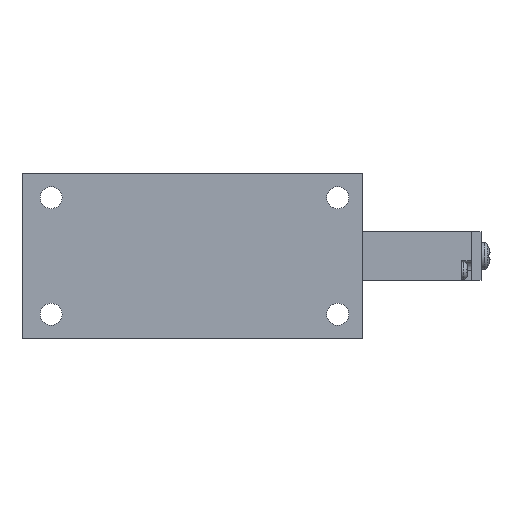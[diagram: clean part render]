
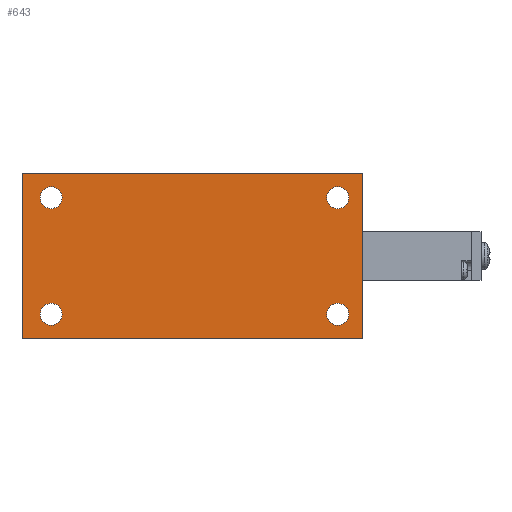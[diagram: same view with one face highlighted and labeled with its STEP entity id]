
A CAD part, front view. The second image highlights one B-rep face of the part: STEP entity #643.
In plain terms, the highlighted planar face has unit normal (0, -1, 0).
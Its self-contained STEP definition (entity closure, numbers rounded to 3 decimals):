
#643=ADVANCED_FACE('',(#1352,#1353,#1354,#1355,#1356),#1357,.F.);
#1352=FACE_OUTER_BOUND('',#2073,.T.);
#1353=FACE_BOUND('',#2074,.T.);
#1354=FACE_BOUND('',#2075,.T.);
#1355=FACE_BOUND('',#2076,.T.);
#1356=FACE_BOUND('',#2077,.T.);
#1357=PLANE('',#2078);
#2073=EDGE_LOOP('',(#4474,#4475,#4476,#4477));
#2074=EDGE_LOOP('',(#4478));
#2075=EDGE_LOOP('',(#4479));
#2076=EDGE_LOOP('',(#4480));
#2077=EDGE_LOOP('',(#4481));
#2078=AXIS2_PLACEMENT_3D('',#4482,#4483,#4484);
#4474=ORIENTED_EDGE('',*,*,#5238,.T.);
#4475=ORIENTED_EDGE('',*,*,#5245,.F.);
#4476=ORIENTED_EDGE('',*,*,#5249,.F.);
#4477=ORIENTED_EDGE('',*,*,#5228,.T.);
#4478=ORIENTED_EDGE('',*,*,#5236,.F.);
#4479=ORIENTED_EDGE('',*,*,#5239,.F.);
#4480=ORIENTED_EDGE('',*,*,#5240,.F.);
#4481=ORIENTED_EDGE('',*,*,#5241,.F.);
#4482=CARTESIAN_POINT('',(0.0,0.0,17.0));
#4483=DIRECTION('',(-0.0,1.0,0.0));
#4484=DIRECTION('',(1.0,0.0,0.0));
#5228=EDGE_CURVE('',#6474,#6472,#6475,.T.);
#5236=EDGE_CURVE('',#6489,#6489,#6490,.T.);
#5238=EDGE_CURVE('',#6472,#6491,#6493,.T.);
#5239=EDGE_CURVE('',#6494,#6494,#6495,.T.);
#5240=EDGE_CURVE('',#6496,#6496,#6497,.T.);
#5241=EDGE_CURVE('',#6498,#6498,#6499,.T.);
#5245=EDGE_CURVE('',#6504,#6491,#6506,.T.);
#5249=EDGE_CURVE('',#6474,#6504,#6513,.T.);
#6472=VERTEX_POINT('',#8576);
#6474=VERTEX_POINT('',#8579);
#6475=LINE('',#8580,#8581);
#6489=VERTEX_POINT('',#8596);
#6490=CIRCLE('',#8597,2.25);
#6491=VERTEX_POINT('',#8598);
#6493=LINE('',#8601,#8602);
#6494=VERTEX_POINT('',#8603);
#6495=CIRCLE('',#8604,2.25);
#6496=VERTEX_POINT('',#8605);
#6497=CIRCLE('',#8606,2.25);
#6498=VERTEX_POINT('',#8607);
#6499=CIRCLE('',#8608,2.25);
#6504=VERTEX_POINT('',#8613);
#6506=LINE('',#8616,#8617);
#6513=LINE('',#8624,#8625);
#8576=CARTESIAN_POINT('',(0.0,0.0,-17.0));
#8579=CARTESIAN_POINT('',(0.0,0.0,17.0));
#8580=CARTESIAN_POINT('',(0.0,0.0,17.0));
#8581=VECTOR('',#9640,1.0);
#8596=CARTESIAN_POINT('',(6.0,0.0,14.25));
#8597=AXIS2_PLACEMENT_3D('',#9660,#9661,#9662);
#8598=CARTESIAN_POINT('',(70.0,0.0,-17.0));
#8601=CARTESIAN_POINT('',(0.0,0.0,-17.0));
#8602=VECTOR('',#9664,1.0);
#8603=CARTESIAN_POINT('',(65.0,0.0,-9.75));
#8604=AXIS2_PLACEMENT_3D('',#9665,#9666,#9667);
#8605=CARTESIAN_POINT('',(6.0,0.0,-9.75));
#8606=AXIS2_PLACEMENT_3D('',#9668,#9669,#9670);
#8607=CARTESIAN_POINT('',(65.0,0.0,14.25));
#8608=AXIS2_PLACEMENT_3D('',#9671,#9672,#9673);
#8613=CARTESIAN_POINT('',(70.0,0.0,17.0));
#8616=CARTESIAN_POINT('',(70.0,0.0,17.0));
#8617=VECTOR('',#9681,1.0);
#8624=CARTESIAN_POINT('',(0.0,0.0,17.0));
#8625=VECTOR('',#9691,1.0);
#9640=DIRECTION('',(0.0,0.0,-1.0));
#9660=CARTESIAN_POINT('',(6.0,0.0,12.0));
#9661=DIRECTION('',(0.0,-1.0,0.0));
#9662=DIRECTION('',(0.0,0.0,1.0));
#9664=DIRECTION('',(1.0,0.0,0.0));
#9665=CARTESIAN_POINT('',(65.0,0.0,-12.0));
#9666=DIRECTION('',(0.0,-1.0,0.0));
#9667=DIRECTION('',(0.0,0.0,1.0));
#9668=CARTESIAN_POINT('',(6.0,0.0,-12.0));
#9669=DIRECTION('',(0.0,-1.0,0.0));
#9670=DIRECTION('',(0.0,0.0,1.0));
#9671=CARTESIAN_POINT('',(65.0,0.0,12.0));
#9672=DIRECTION('',(0.0,-1.0,0.0));
#9673=DIRECTION('',(0.0,0.0,1.0));
#9681=DIRECTION('',(0.0,0.0,-1.0));
#9691=DIRECTION('',(1.0,0.0,0.0));
